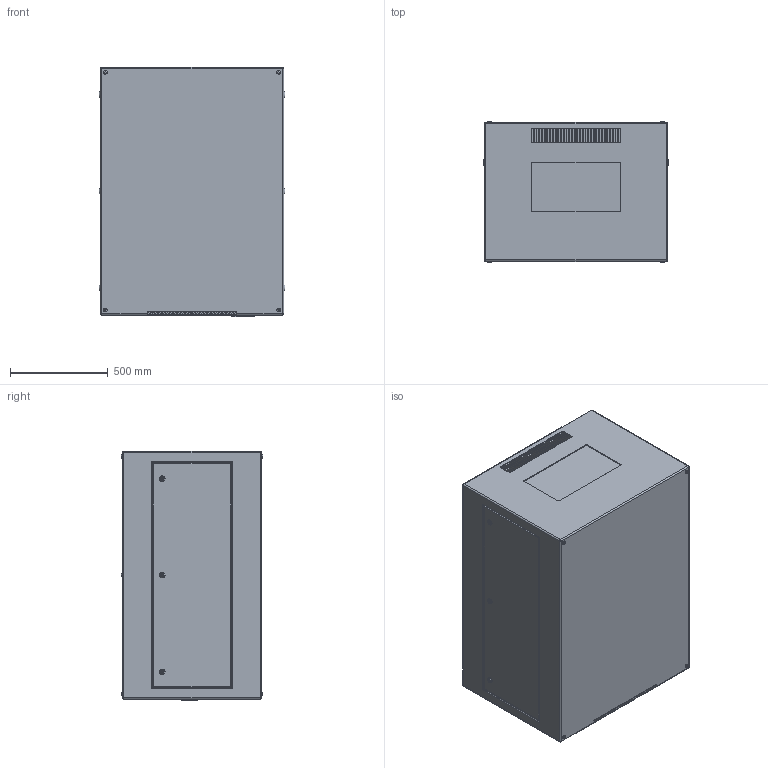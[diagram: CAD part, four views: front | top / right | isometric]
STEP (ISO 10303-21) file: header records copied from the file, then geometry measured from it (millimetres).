
FILE_DESCRIPTION (( 'STEP AP214' ), '1' );
FILE_NAME ('Zen 57.250.L R11.STEP', '2022-09-15T21:15:36', ( '' ), ( '' ), 'SwSTEP 2.0', 'SolidWorks 2020', '' );
FILE_SCHEMA (( 'AUTOMOTIVE_DESIGN' ));
Length unit declared in the file: inch
Products named in the file (1): Zen 57.250.L R11
Bounding box: 952.5 x 725.92 x 1277.62 mm (x, y, z)
Volume: 847281846 mm3; surface area: 5885881.6 mm2
Topology: 1 solids, 7 shells, 1134 faces, 2856 edges, 1758 vertices
Faces by surface type: plane 518, cylinder 490, sphere 74, torus 52
Entity records: 37496 total; most frequent: CARTESIAN_POINT 6211, DIRECTION 5988, ORIENTED_EDGE 5564, EDGE_CURVE 2782, AXIS2_PLACEMENT_3D 2167, VERTEX_POINT 1758, LINE 1654, VECTOR 1654
